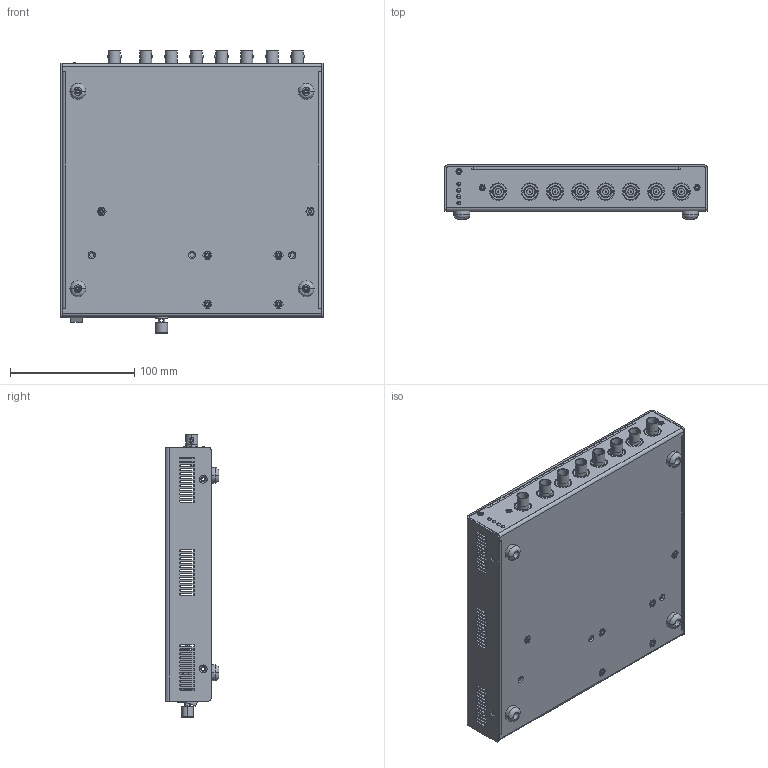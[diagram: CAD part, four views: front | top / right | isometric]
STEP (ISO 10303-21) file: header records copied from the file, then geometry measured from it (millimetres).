
FILE_DESCRIPTION((''),'2;1');
FILE_NAME('ASM_TOP_LEVEL_FS715_ASM','2020-05-15T10:08:11',('gaw'),(''),'CREO PARAMETRIC BY PTC INC, 2019471','CREO PARAMETRIC BY PTC INC, 2019471','');
FILE_SCHEMA(('CONFIG_CONTROL_DESIGN'));
Length unit declared in the file: inch
Products named in the file (25): 7-01930-720_CHASSIS_FS715; CLS-632-2; CLS-440-2; SOS-6440-16; SOS-440-10; SOS-440-8; PEM_SOS-632-8; 7-01930-720_CHASSIS_FS715_ASM; SWITCH_ROCKER; POWER_ENTRY_MODULE_ED8; GROUND_LUG; NUT_GROUND_LUG; 7-01931-720_COVER_FS715; 7-01935-709_ADHESIVE_FS730; 7-01935-709_LEXAN_FS730_1; 7-01935-709_LEXAN_FS730_1_ASM; FOOT_RUBBER_BMPR_MOUSER_534-720; 7-01929-721_BLOCK_BNC; 1-01158-120_BNC_50_OHM; 7-01925-701_PCB_FS715; 7-01925-701_PCB_FS715_ASM; 7-01925-701_PCB_LED_BREAKAWAY; LED_GREEN_STRAIGHT; 7-01925-701_PCB_LED_BREAKAWAY_ASM; ASM_TOP_LEVEL_FS715_ASM
Assembly tree (50 placements, depth 3):
  ASM_TOP_LEVEL_FS715_ASM
    7-01930-720_CHASSIS_FS715_ASM
      7-01930-720_CHASSIS_FS715
      CLS-632-2  x6
      CLS-440-2  x4
      SOS-6440-16  x2
      SOS-440-10  x2
      SOS-440-8
      PEM_SOS-632-8  x4
    SWITCH_ROCKER
    POWER_ENTRY_MODULE_ED8
    GROUND_LUG
    NUT_GROUND_LUG
    7-01931-720_COVER_FS715
    7-01935-709_LEXAN_FS730_1_ASM
      7-01935-709_ADHESIVE_FS730
      7-01935-709_LEXAN_FS730_1
    FOOT_RUBBER_BMPR_MOUSER_534-720  x4
    7-01929-721_BLOCK_BNC
    1-01158-120_BNC_50_OHM  x8
    7-01925-701_PCB_FS715_ASM
      7-01925-701_PCB_FS715
    7-01925-701_PCB_LED_BREAKAWAY_ASM
      7-01925-701_PCB_LED_BREAKAWAY
      LED_GREEN_STRAIGHT  x4
Bounding box: 212.09 x 43.38 x 227.2 mm (x, y, z)
Volume: 277143.1 mm3; surface area: 353460.2 mm2
Topology: 47 solids, 84 shells, 1604 faces, 4086 edges, 2684 vertices
Faces by surface type: cylinder 858, plane 658, cone 50, bspline 20, torus 18
Entity records: 36320 total; most frequent: CARTESIAN_POINT 6603, DIRECTION 6439, ORIENTED_EDGE 5718, EDGE_CURVE 2920, AXIS2_PLACEMENT_3D 2364, VERTEX_POINT 1916, VECTOR 1711, LINE 1711
